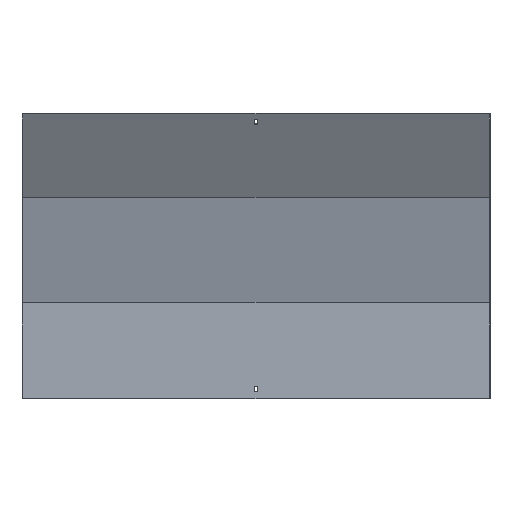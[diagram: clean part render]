
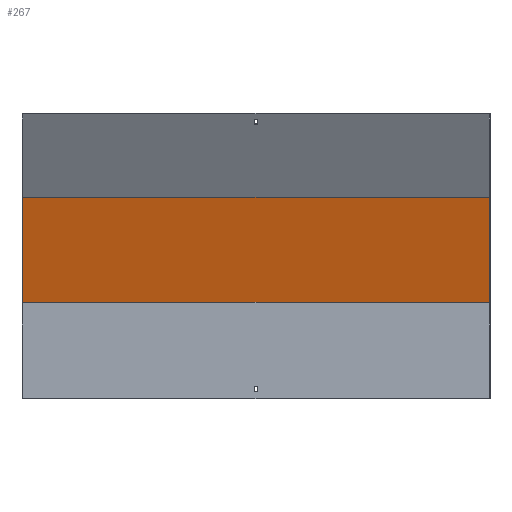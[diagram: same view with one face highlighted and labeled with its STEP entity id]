
A CAD part, front view. The second image highlights one B-rep face of the part: STEP entity #267.
In plain terms, the highlighted planar face has unit normal (0, -0.966, -0.259).
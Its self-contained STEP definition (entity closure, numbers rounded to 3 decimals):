
#48 = LINE ( 'NONE', #318, #786 ) ;
#77 = VERTEX_POINT ( 'NONE', #636 ) ;
#101 = CARTESIAN_POINT ( 'NONE',  ( -400., -29.866, 345.939 ) ) ;
#108 = DIRECTION ( 'NONE',  ( -1., 0., 0. ) ) ;
#164 = LINE ( 'NONE', #301, #506 ) ;
#170 = VECTOR ( 'NONE', #459, 1000. ) ;
#176 = ORIENTED_EDGE ( 'NONE', *, *, #774, .F. ) ;
#193 = LINE ( 'NONE', #325, #170 ) ;
#267 = ADVANCED_FACE ( 'NONE', ( #755 ), #623, .T. ) ;
#292 = VERTEX_POINT ( 'NONE', #829 ) ;
#293 = DIRECTION ( 'NONE',  ( 0., -0.259, 0.966 ) ) ;
#301 = CARTESIAN_POINT ( 'NONE',  ( 401.5, 18.5, 165.436 ) ) ;
#318 = CARTESIAN_POINT ( 'NONE',  ( 400., 58.62, 15.707 ) ) ;
#325 = CARTESIAN_POINT ( 'NONE',  ( -400., 58.62, 15.707 ) ) ;
#346 = AXIS2_PLACEMENT_3D ( 'NONE', #693, #368, #702 ) ;
#367 = ORIENTED_EDGE ( 'NONE', *, *, #417, .F. ) ;
#368 = DIRECTION ( 'NONE',  ( 0., -0.966, -0.259 ) ) ;
#399 = DIRECTION ( 'NONE',  ( -1., 0., 0. ) ) ;
#417 = EDGE_CURVE ( 'NONE', #77, #812, #193, .T. ) ;
#459 = DIRECTION ( 'NONE',  ( 0., -0.259, 0.966 ) ) ;
#463 = LINE ( 'NONE', #720, #750 ) ;
#476 = EDGE_CURVE ( 'NONE', #292, #812, #463, .T. ) ;
#506 = VECTOR ( 'NONE', #108, 1000. ) ;
#593 = EDGE_LOOP ( 'NONE', ( #367, #176, #819, #791 ) ) ;
#623 = PLANE ( 'NONE',  #346 ) ;
#636 = CARTESIAN_POINT ( 'NONE',  ( -400., 18.5, 165.436 ) ) ;
#693 = CARTESIAN_POINT ( 'NONE',  ( 401.5, 17.87, 167.788 ) ) ;
#702 = DIRECTION ( 'NONE',  ( 0., 0.259, -0.966 ) ) ;
#720 = CARTESIAN_POINT ( 'NONE',  ( 401.5, -29.866, 345.939 ) ) ;
#750 = VECTOR ( 'NONE', #399, 1000. ) ;
#755 = FACE_OUTER_BOUND ( 'NONE', #593, .T. ) ;
#762 = VERTEX_POINT ( 'NONE', #831 ) ;
#774 = EDGE_CURVE ( 'NONE', #762, #77, #164, .T. ) ;
#786 = VECTOR ( 'NONE', #293, 1000. ) ;
#791 = ORIENTED_EDGE ( 'NONE', *, *, #476, .T. ) ;
#812 = VERTEX_POINT ( 'NONE', #101 ) ;
#819 = ORIENTED_EDGE ( 'NONE', *, *, #844, .T. ) ;
#829 = CARTESIAN_POINT ( 'NONE',  ( 400., -29.866, 345.939 ) ) ;
#831 = CARTESIAN_POINT ( 'NONE',  ( 400., 18.5, 165.436 ) ) ;
#844 = EDGE_CURVE ( 'NONE', #762, #292, #48, .T. ) ;
